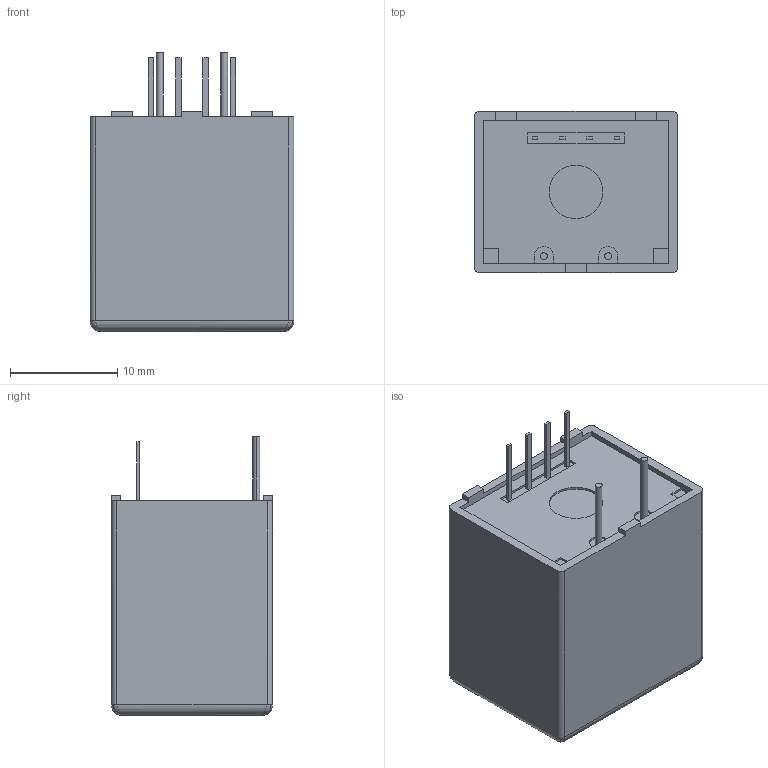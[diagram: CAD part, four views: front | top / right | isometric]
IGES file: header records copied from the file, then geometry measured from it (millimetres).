
Start section: Elysium IGES Interface
Global section: file name: 80HC:\Documents and Settings\tah\デスクトップ\BLACK_BOX\LA-PB\LA 10-PB\LA_10-PB.igs; native system: CoCreate Modeling 17.00A  17-Jun-2010; preprocessor: CoCreate IGES_3D V2.2; author: Unknown; organization: Unknown; date: 20140220.190158; units: millimetre
Bounding box: 19 x 15 x 26 mm (x, y, z)
Volume: 5569.5 mm3; surface area: 1998.4 mm2
Topology: 1 solids, 1 shells, 90 faces, 228 edges, 148 vertices
Faces by surface type: bspline 90
